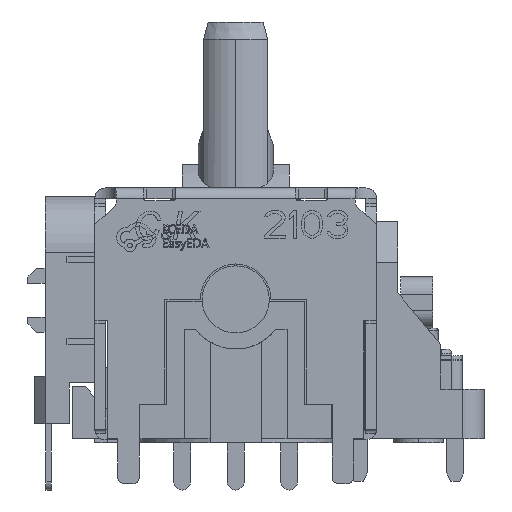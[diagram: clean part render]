
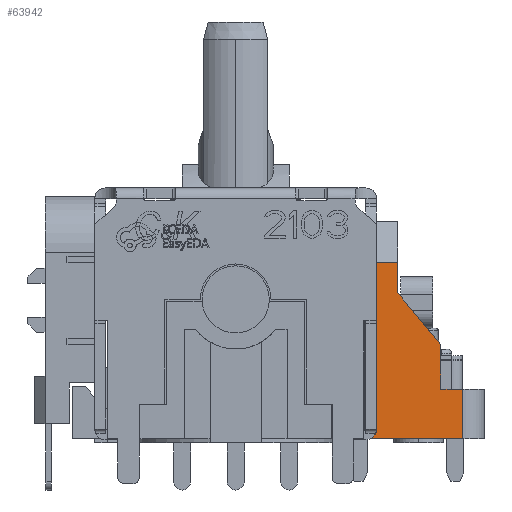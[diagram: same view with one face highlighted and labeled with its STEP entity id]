
A CAD part, left-side view. The second image highlights one B-rep face of the part: STEP entity #63942.
In plain terms, the highlighted planar face has unit normal (-1, 0, 0).
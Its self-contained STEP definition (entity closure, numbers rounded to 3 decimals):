
#1886 = CARTESIAN_POINT ( 'NONE',  ( -4.3, -9.575, -8.9 ) ) ;
#2133 = DIRECTION ( 'NONE',  ( -1., 0., 0. ) ) ;
#2161 = VERTEX_POINT ( 'NONE', #14830 ) ;
#2221 = ORIENTED_EDGE ( 'NONE', *, *, #68203, .T. ) ;
#2831 = EDGE_CURVE ( 'NONE', #23587, #3709, #46756, .T. ) ;
#3709 = VERTEX_POINT ( 'NONE', #62490 ) ;
#4349 = DIRECTION ( 'NONE',  ( 0., 0., -1. ) ) ;
#4380 = LINE ( 'NONE', #9286, #19926 ) ;
#4695 = LINE ( 'NONE', #55789, #45764 ) ;
#4816 = VECTOR ( 'NONE', #18608, 1000. ) ;
#7774 = ORIENTED_EDGE ( 'NONE', *, *, #51502, .F. ) ;
#7784 = CARTESIAN_POINT ( 'NONE',  ( -4.3, -6.075, -8.9 ) ) ;
#8274 = LINE ( 'NONE', #71677, #70323 ) ;
#8651 = DIRECTION ( 'NONE',  ( 0., 0., 1. ) ) ;
#8734 = DIRECTION ( 'NONE',  ( 0., 0., -1. ) ) ;
#9163 = ORIENTED_EDGE ( 'NONE', *, *, #60988, .F. ) ;
#9286 = CARTESIAN_POINT ( 'NONE',  ( -4.3, -10.6, -11.2 ) ) ;
#9972 = LINE ( 'NONE', #55770, #39458 ) ;
#10495 = ORIENTED_EDGE ( 'NONE', *, *, #16406, .T. ) ;
#10831 = CARTESIAN_POINT ( 'NONE',  ( -4.3, -10.6, -11.2 ) ) ;
#11881 = EDGE_LOOP ( 'NONE', ( #9163, #40477, #10495, #17179, #7774, #29654, #18690, #26206, #13284, #2221 ) ) ;
#13284 = ORIENTED_EDGE ( 'NONE', *, *, #26654, .F. ) ;
#14752 = LINE ( 'NONE', #21112, #35338 ) ;
#14820 = VERTEX_POINT ( 'NONE', #74154 ) ;
#14830 = CARTESIAN_POINT ( 'NONE',  ( -4.3, -6.075, -2.966 ) ) ;
#15287 = DIRECTION ( 'NONE',  ( 0., 0., -1. ) ) ;
#15630 = LINE ( 'NONE', #43085, #73738 ) ;
#15965 = EDGE_CURVE ( 'NONE', #39552, #2161, #42850, .T. ) ;
#16406 = EDGE_CURVE ( 'NONE', #2161, #23587, #4695, .T. ) ;
#16600 = AXIS2_PLACEMENT_3D ( 'NONE', #64774, #2133, #65150 ) ;
#16803 = VERTEX_POINT ( 'NONE', #70524 ) ;
#17179 = ORIENTED_EDGE ( 'NONE', *, *, #2831, .T. ) ;
#18608 = DIRECTION ( 'NONE',  ( 0., 0.64, 0.768 ) ) ;
#18690 = ORIENTED_EDGE ( 'NONE', *, *, #63491, .T. ) ;
#18874 = VECTOR ( 'NONE', #40874, 1000. ) ;
#19005 = PLANE ( 'NONE',  #16600 ) ;
#19926 = VECTOR ( 'NONE', #37808, 1000. ) ;
#21112 = CARTESIAN_POINT ( 'NONE',  ( -4.3, -7.575, -2.966 ) ) ;
#23587 = VERTEX_POINT ( 'NONE', #7784 ) ;
#24889 = CARTESIAN_POINT ( 'NONE',  ( -4.3, -7.575, -2.966 ) ) ;
#26206 = ORIENTED_EDGE ( 'NONE', *, *, #57917, .T. ) ;
#26654 = EDGE_CURVE ( 'NONE', #14820, #67997, #15630, .T. ) ;
#29654 = ORIENTED_EDGE ( 'NONE', *, *, #44217, .F. ) ;
#32276 = DIRECTION ( 'NONE',  ( 0., 1., 0. ) ) ;
#35152 = DIRECTION ( 'NONE',  ( 0., 1., 0. ) ) ;
#35338 = VECTOR ( 'NONE', #8734, 1000. ) ;
#35858 = VERTEX_POINT ( 'NONE', #51592 ) ;
#37565 = CARTESIAN_POINT ( 'NONE',  ( -4.3, -7.575, -2.966 ) ) ;
#37808 = DIRECTION ( 'NONE',  ( 0., 1., 0. ) ) ;
#38660 = CARTESIAN_POINT ( 'NONE',  ( -4.3, -6., -11.2 ) ) ;
#39458 = VECTOR ( 'NONE', #62122, 1000. ) ;
#39552 = VERTEX_POINT ( 'NONE', #24889 ) ;
#39656 = VECTOR ( 'NONE', #35152, 1000. ) ;
#40477 = ORIENTED_EDGE ( 'NONE', *, *, #15965, .T. ) ;
#40874 = DIRECTION ( 'NONE',  ( 0., 0., 1. ) ) ;
#42850 = LINE ( 'NONE', #37565, #70776 ) ;
#43085 = CARTESIAN_POINT ( 'NONE',  ( -4.3, -9.575, -6.8 ) ) ;
#44217 = EDGE_CURVE ( 'NONE', #69152, #56432, #4380, .T. ) ;
#45764 = VECTOR ( 'NONE', #4349, 1000. ) ;
#46756 = LINE ( 'NONE', #57626, #39656 ) ;
#50679 = LINE ( 'NONE', #69371, #18874 ) ;
#51502 = EDGE_CURVE ( 'NONE', #56432, #3709, #8274, .T. ) ;
#51592 = CARTESIAN_POINT ( 'NONE',  ( -4.3, -7.575, -4.4 ) ) ;
#55770 = CARTESIAN_POINT ( 'NONE',  ( -4.3, -10.6, -8.9 ) ) ;
#55789 = CARTESIAN_POINT ( 'NONE',  ( -4.3, -6.075, -2.966 ) ) ;
#56432 = VERTEX_POINT ( 'NONE', #38660 ) ;
#57626 = CARTESIAN_POINT ( 'NONE',  ( -4.3, -6.075, -8.9 ) ) ;
#57917 = EDGE_CURVE ( 'NONE', #16803, #67997, #9972, .T. ) ;
#58003 = CARTESIAN_POINT ( 'NONE',  ( -4.3, -9.575, -6.8 ) ) ;
#60988 = EDGE_CURVE ( 'NONE', #39552, #35858, #14752, .T. ) ;
#62122 = DIRECTION ( 'NONE',  ( 0., 1., 0. ) ) ;
#62490 = CARTESIAN_POINT ( 'NONE',  ( -4.3, -6., -8.9 ) ) ;
#63491 = EDGE_CURVE ( 'NONE', #69152, #16803, #50679, .T. ) ;
#63683 = FACE_OUTER_BOUND ( 'NONE', #11881, .T. ) ;
#63942 = ADVANCED_FACE ( 'NONE', ( #63683 ), #19005, .T. ) ;
#64774 = CARTESIAN_POINT ( 'NONE',  ( -4.3, -11.6, -11.2 ) ) ;
#65150 = DIRECTION ( 'NONE',  ( 0., 0., 1. ) ) ;
#67997 = VERTEX_POINT ( 'NONE', #1886 ) ;
#68203 = EDGE_CURVE ( 'NONE', #14820, #35858, #70003, .T. ) ;
#69152 = VERTEX_POINT ( 'NONE', #10831 ) ;
#69371 = CARTESIAN_POINT ( 'NONE',  ( -4.3, -10.6, -11.2 ) ) ;
#70003 = LINE ( 'NONE', #58003, #4816 ) ;
#70323 = VECTOR ( 'NONE', #8651, 1000. ) ;
#70524 = CARTESIAN_POINT ( 'NONE',  ( -4.3, -10.6, -8.9 ) ) ;
#70776 = VECTOR ( 'NONE', #32276, 1000. ) ;
#71677 = CARTESIAN_POINT ( 'NONE',  ( -4.3, -6., -11.2 ) ) ;
#73738 = VECTOR ( 'NONE', #15287, 1000. ) ;
#74154 = CARTESIAN_POINT ( 'NONE',  ( -4.3, -9.575, -6.8 ) ) ;
